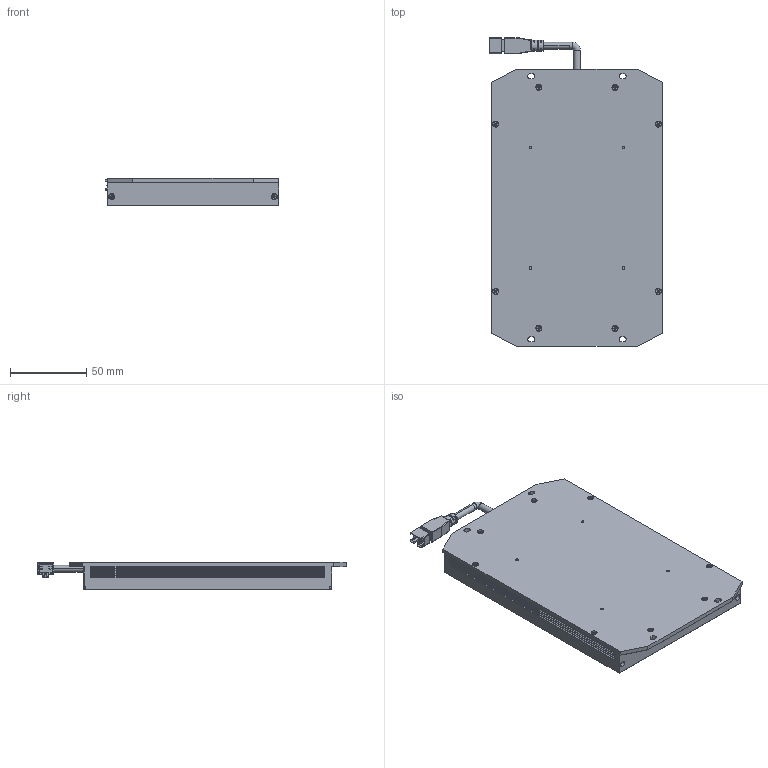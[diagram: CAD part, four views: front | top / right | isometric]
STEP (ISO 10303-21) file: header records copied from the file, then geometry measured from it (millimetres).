
FILE_DESCRIPTION((''),'2;1');
FILE_NAME('PRT0002','2022-11-04T18:08:47',('lizhoupeng'),(''),'CREO PARAMETRIC BY PTC INC, 2020044','CREO PARAMETRIC BY PTC INC, 2020044','');
FILE_SCHEMA(('CONFIG_CONTROL_DESIGN'));
Length unit declared in the file: millimetre
Products named in the file (1): PRT0002
Bounding box: 114.3 x 202.75 x 18 mm (x, y, z)
Volume: 338149.3 mm3; surface area: 56146.8 mm2
Topology: 1 solids, 40 shells, 1287 faces, 3046 edges, 1846 vertices
Faces by surface type: plane 773, cylinder 338, cone 110, torus 50, sphere 8, bspline 8
Entity records: 36905 total; most frequent: CARTESIAN_POINT 7218, DIRECTION 6224, ORIENTED_EDGE 6044, EDGE_CURVE 3022, AXIS2_PLACEMENT_3D 2121, VECTOR 1982, LINE 1982, VERTEX_POINT 1846
